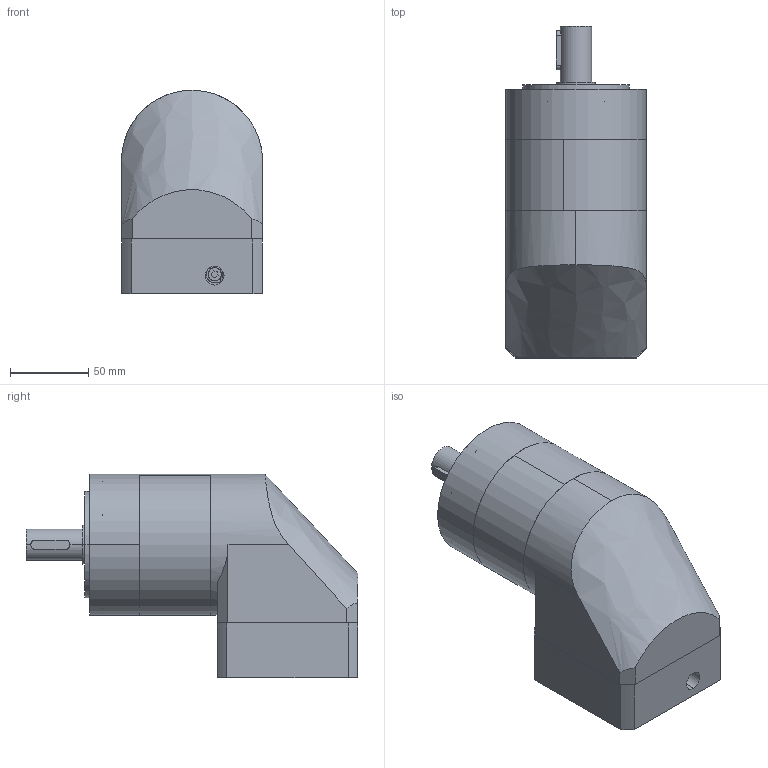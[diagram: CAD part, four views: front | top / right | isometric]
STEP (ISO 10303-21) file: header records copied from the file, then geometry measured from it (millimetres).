
FILE_DESCRIPTION (( 'STEP AP203' ), '1' );
FILE_NAME ('PVEA090-L2-19-70-90.STEP', '2022-07-27T03:54:19', ( 'Windows User' ), ( 'P R C' ), 'SwSTEP 2.0', 'SolidWorks 2016', '' );
FILE_SCHEMA (( 'CONFIG_CONTROL_DESIGN' ));
Length unit declared in the file: millimetre
Products named in the file (9): PVEA090-蟀諉啣; PVEA090-薊粣ん; M5 x 20; 粣創-3206A 30x62x23.8_2; 邧埴瑩 6x6x25; PVEA090-L2-19-70-90; PVEA090 眊极_揤翉; PVEA090 內齿圈-优化_二级内齿圈; PVEA090 奻屳唳
Assembly tree (8 placements, depth 2):
  PVEA090-L2-19-70-90
    PVEA090 眊极_揤翉
    PVEA090 內齿圈-优化_二级内齿圈
    PVEA090 奻屳唳
    PVEA090-蟀諉啣
    PVEA090-薊粣ん
    M5 x 20
    粣創-3206A 30x62x23.8_2
    邧埴瑩 6x6x25
Bounding box: 90 x 212 x 130 mm (x, y, z)
Volume: 1222364.4 mm3; surface area: 193233.3 mm2
Topology: 12 solids, 12 shells, 1133 faces, 3252 edges, 2089 vertices
Faces by surface type: plane 583, bspline 296, cylinder 216, cone 38
Entity records: 48310 total; most frequent: CARTESIAN_POINT 19930, ORIENTED_EDGE 6256, DIRECTION 4834, EDGE_CURVE 3128, VERTEX_POINT 2089, VECTOR 1744, LINE 1744, AXIS2_PLACEMENT_3D 1545
